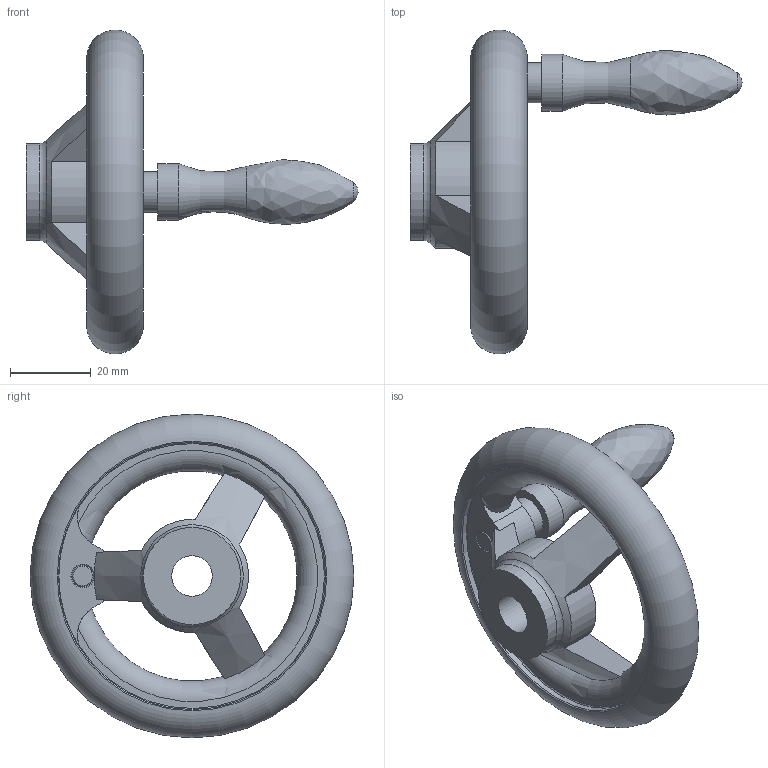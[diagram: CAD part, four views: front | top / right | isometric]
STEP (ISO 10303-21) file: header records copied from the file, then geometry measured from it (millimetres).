
FILE_DESCRIPTION( ( 'STEP AP203' ), '1' );
FILE_NAME( 'C:/Temp/Ganter_Step_05_03_2020/data/1_3/din_950/din_950_b/din_950_b_d/Handwheel DIN 950-GG-80-B10-D.stp', '2020-03-05T10:29:33', ( 'License CC BY-ND 4.0' ), ( 'CADENAS' ), ' ', 'PARTsolutions', ' ' );
FILE_SCHEMA( ( 'CONFIG_CONTROL_DESIGN' ) );
Length unit declared in the file: millimetre
Products named in the file (1): _Handwheel DIN 950-GG-80-B10-D
Bounding box: 82 x 79.97 x 79.97 mm (x, y, z)
Volume: 46631.9 mm3; surface area: 15920.4 mm2
Topology: 1 solids, 1 shells, 45 faces, 126 edges, 80 vertices
Faces by surface type: plane 15, cylinder 13, torus 11, cone 4, bspline 1, sphere 1
Full cylindrical faces by diameter (mm): 10 x2, 14 x1, 24 x2, 66 x2
Entity records: 1613 total; most frequent: CARTESIAN_POINT 541, DIRECTION 214, ORIENTED_EDGE 194, AXIS2_PLACEMENT_3D 101, EDGE_CURVE 97, VERTEX_POINT 74, EDGE_LOOP 71, FACE_OUTER_BOUND 61
